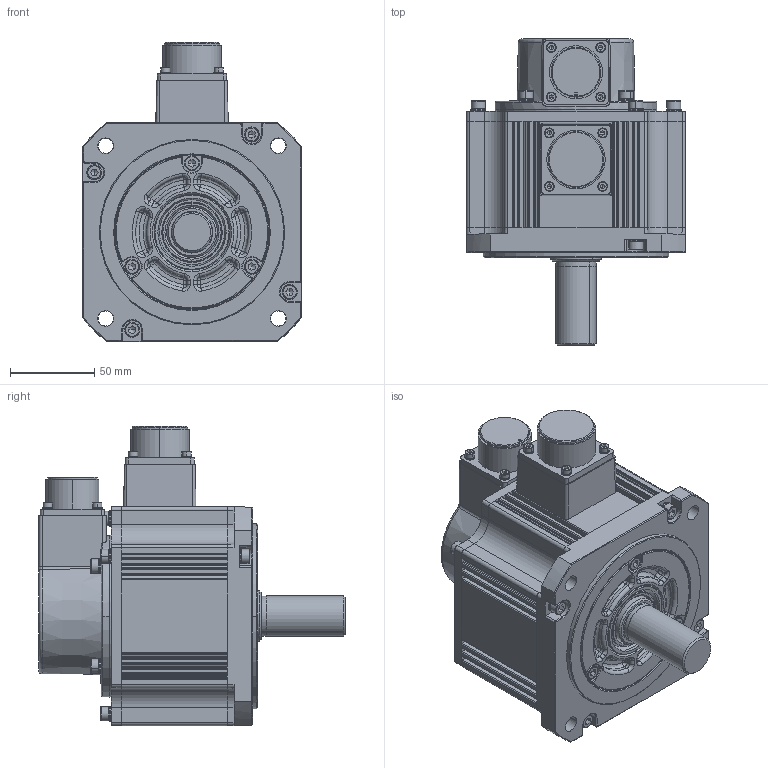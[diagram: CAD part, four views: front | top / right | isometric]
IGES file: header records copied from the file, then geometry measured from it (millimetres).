
Global section: file name: 7HNo Iges File Name specified; native system: AutoDesk Inventor R12.0; preprocessor: AutoDesk Inventor Iges Exporter R12.0; author: No Author specified; organization: No Organization specified; date: 20160715.170102; units: millimetre
Bounding box: 130 x 182 x 177.7 mm (x, y, z)
Volume: 1609035.1 mm3; surface area: 126722.7 mm2
Topology: 1 solids, 1 shells, 1167 faces, 2960 edges, 1826 vertices
Faces by surface type: plane 454, cylinder 250, revolution 220, torus 182, cone 34, bspline 19, sphere 8
